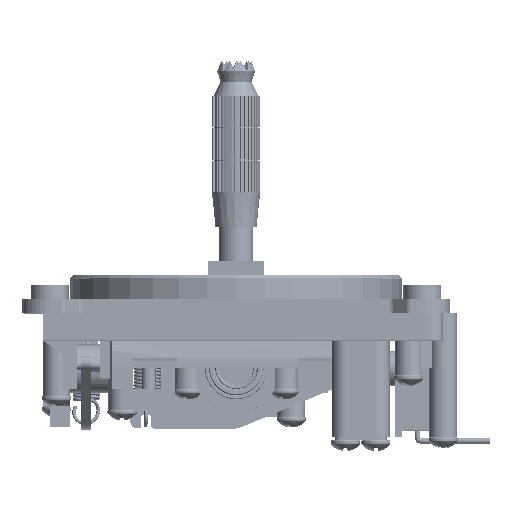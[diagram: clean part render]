
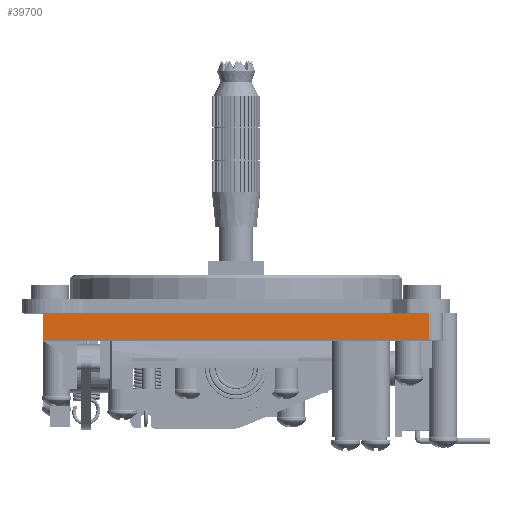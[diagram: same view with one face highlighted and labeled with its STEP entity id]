
A CAD part, top view. The second image highlights one B-rep face of the part: STEP entity #39700.
In plain terms, the highlighted planar face has unit normal (0, 0, 1) as drawn and (0, 0, -1) by its records, which use the part's own axes.
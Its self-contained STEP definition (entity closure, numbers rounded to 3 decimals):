
#1121 = CARTESIAN_POINT ( 'NONE',  ( -30.196, 0., -27.011 ) ) ;
#9402 = VERTEX_POINT ( 'NONE', #91680 ) ;
#11175 = VERTEX_POINT ( 'NONE', #90511 ) ;
#14354 = VECTOR ( 'NONE', #53619, 1000. ) ;
#22507 = LINE ( 'NONE', #95839, #14354 ) ;
#23287 = VERTEX_POINT ( 'NONE', #48910 ) ;
#25029 = ORIENTED_EDGE ( 'NONE', *, *, #92948, .T. ) ;
#25337 = CARTESIAN_POINT ( 'NONE',  ( 25.804, 2., -27.011 ) ) ;
#25338 = DIRECTION ( 'NONE',  ( 0., -1., 0. ) ) ;
#28515 = PLANE ( 'NONE',  #65154 ) ;
#32930 = ORIENTED_EDGE ( 'NONE', *, *, #75879, .T. ) ;
#33095 = VERTEX_POINT ( 'NONE', #37884 ) ;
#35828 = DIRECTION ( 'NONE',  ( 1., 0., 0. ) ) ;
#37884 = CARTESIAN_POINT ( 'NONE',  ( -30.196, 0., -27.011 ) ) ;
#38396 = VECTOR ( 'NONE', #76375, 1000. ) ;
#38502 = ORIENTED_EDGE ( 'NONE', *, *, #68929, .F. ) ;
#39700 = ADVANCED_FACE ( 'NONE', ( #70827 ), #28515, .F. ) ;
#43973 = ORIENTED_EDGE ( 'NONE', *, *, #61136, .F. ) ;
#47246 = LINE ( 'NONE', #25337, #38396 ) ;
#48910 = CARTESIAN_POINT ( 'NONE',  ( -30.196, 4., -27.011 ) ) ;
#53619 = DIRECTION ( 'NONE',  ( -1., 0., 0. ) ) ;
#55502 = LINE ( 'NONE', #57797, #92840 ) ;
#57797 = CARTESIAN_POINT ( 'NONE',  ( -30.196, 2., -27.011 ) ) ;
#61136 = EDGE_CURVE ( 'NONE', #9402, #23287, #22507, .T. ) ;
#65154 = AXIS2_PLACEMENT_3D ( 'NONE', #94071, #85374, #35828 ) ;
#68929 = EDGE_CURVE ( 'NONE', #23287, #33095, #55502, .T. ) ;
#70827 = FACE_OUTER_BOUND ( 'NONE', #94494, .T. ) ;
#74577 = LINE ( 'NONE', #1121, #83116 ) ;
#75879 = EDGE_CURVE ( 'NONE', #11175, #33095, #74577, .T. ) ;
#76375 = DIRECTION ( 'NONE',  ( 0., -1., 0. ) ) ;
#82807 = DIRECTION ( 'NONE',  ( -1., 0., 0. ) ) ;
#83116 = VECTOR ( 'NONE', #82807, 1000. ) ;
#85374 = DIRECTION ( 'NONE',  ( 0., 0., 1. ) ) ;
#90511 = CARTESIAN_POINT ( 'NONE',  ( 25.804, 0., -27.011 ) ) ;
#91680 = CARTESIAN_POINT ( 'NONE',  ( 25.804, 4., -27.011 ) ) ;
#92840 = VECTOR ( 'NONE', #25338, 1000. ) ;
#92948 = EDGE_CURVE ( 'NONE', #9402, #11175, #47246, .T. ) ;
#94071 = CARTESIAN_POINT ( 'NONE',  ( -30.196, 2., -27.011 ) ) ;
#94494 = EDGE_LOOP ( 'NONE', ( #32930, #38502, #43973, #25029 ) ) ;
#95839 = CARTESIAN_POINT ( 'NONE',  ( -30.196, 4., -27.011 ) ) ;
